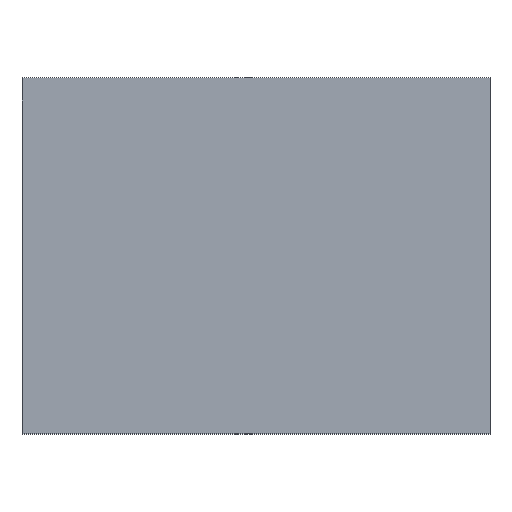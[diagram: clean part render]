
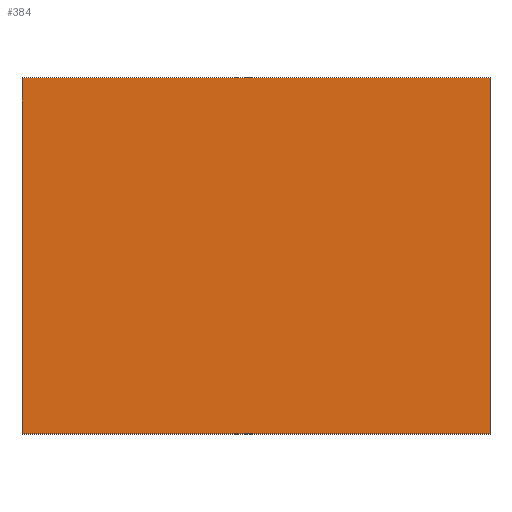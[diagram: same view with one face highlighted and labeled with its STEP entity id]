
A CAD part, top view. The second image highlights one B-rep face of the part: STEP entity #384.
In plain terms, the highlighted planar face has unit normal (0, 0, 1).
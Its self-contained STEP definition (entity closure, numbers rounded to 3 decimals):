
#42 = EDGE_CURVE ( 'NONE', #967, #415, #498, .T. ) ;
#190 = VERTEX_POINT ( 'NONE', #1052 ) ;
#193 = CARTESIAN_POINT ( 'NONE',  ( 50., 0., 12.5 ) ) ;
#202 = VECTOR ( 'NONE', #854, 1000. ) ;
#212 = ORIENTED_EDGE ( 'NONE', *, *, #42, .T. ) ;
#266 = EDGE_CURVE ( 'NONE', #415, #295, #773, .T. ) ;
#269 = ORIENTED_EDGE ( 'NONE', *, *, #266, .T. ) ;
#283 = CARTESIAN_POINT ( 'NONE',  ( 0., 0., 12.5 ) ) ;
#295 = VERTEX_POINT ( 'NONE', #1038 ) ;
#299 = DIRECTION ( 'NONE',  ( -1., 0., 0. ) ) ;
#350 = AXIS2_PLACEMENT_3D ( 'NONE', #1067, #537, #1062 ) ;
#358 = PLANE ( 'NONE',  #350 ) ;
#384 = ADVANCED_FACE ( 'NONE', ( #1076 ), #358, .F. ) ;
#391 = DIRECTION ( 'NONE',  ( 1., 0., 0. ) ) ;
#415 = VERTEX_POINT ( 'NONE', #193 ) ;
#419 = VECTOR ( 'NONE', #299, 1000. ) ;
#423 = ORIENTED_EDGE ( 'NONE', *, *, #1104, .T. ) ;
#425 = CARTESIAN_POINT ( 'NONE',  ( 50., 0., 12.5 ) ) ;
#485 = CARTESIAN_POINT ( 'NONE',  ( 0., 0., 12.5 ) ) ;
#492 = CARTESIAN_POINT ( 'NONE',  ( 0., 0., 12.5 ) ) ;
#498 = LINE ( 'NONE', #485, #1058 ) ;
#499 = CARTESIAN_POINT ( 'NONE',  ( 0., 38., 12.5 ) ) ;
#537 = DIRECTION ( 'NONE',  ( 0., 0., -1. ) ) ;
#574 = LINE ( 'NONE', #492, #864 ) ;
#773 = LINE ( 'NONE', #425, #202 ) ;
#816 = ORIENTED_EDGE ( 'NONE', *, *, #1140, .T. ) ;
#854 = DIRECTION ( 'NONE',  ( 0., 1., 0. ) ) ;
#864 = VECTOR ( 'NONE', #928, 1000. ) ;
#928 = DIRECTION ( 'NONE',  ( 0., -1., 0. ) ) ;
#967 = VERTEX_POINT ( 'NONE', #283 ) ;
#1028 = LINE ( 'NONE', #499, #419 ) ;
#1038 = CARTESIAN_POINT ( 'NONE',  ( 50., 38., 12.5 ) ) ;
#1052 = CARTESIAN_POINT ( 'NONE',  ( 0., 38., 12.5 ) ) ;
#1054 = EDGE_LOOP ( 'NONE', ( #423, #212, #269, #816 ) ) ;
#1058 = VECTOR ( 'NONE', #391, 1000. ) ;
#1062 = DIRECTION ( 'NONE',  ( -1., 0., 0. ) ) ;
#1067 = CARTESIAN_POINT ( 'NONE',  ( 0., 0., 12.5 ) ) ;
#1076 = FACE_OUTER_BOUND ( 'NONE', #1054, .T. ) ;
#1104 = EDGE_CURVE ( 'NONE', #190, #967, #574, .T. ) ;
#1140 = EDGE_CURVE ( 'NONE', #295, #190, #1028, .T. ) ;
